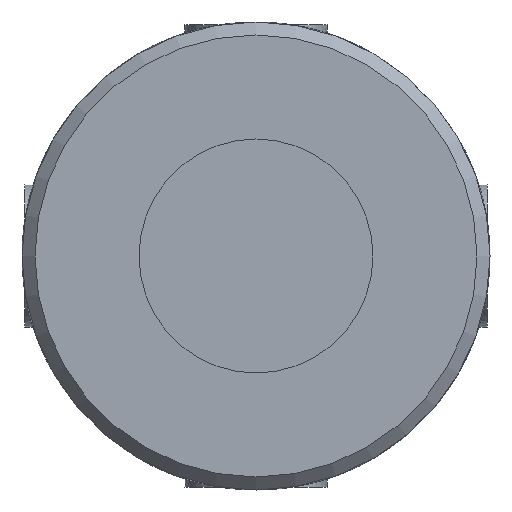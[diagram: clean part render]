
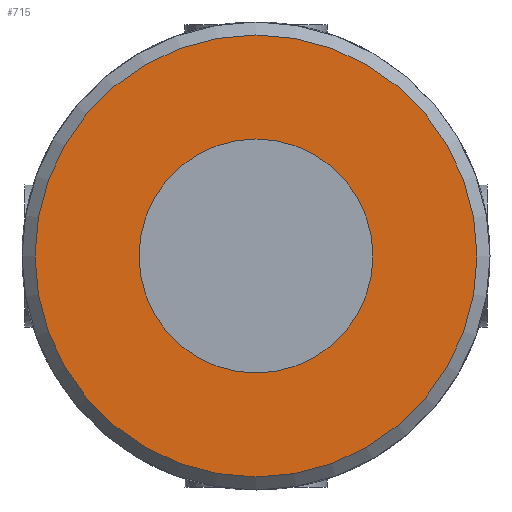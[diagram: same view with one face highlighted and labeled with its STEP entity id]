
A CAD part, front view. The second image highlights one B-rep face of the part: STEP entity #715.
In plain terms, the highlighted planar face has unit normal (0, -1, 0).
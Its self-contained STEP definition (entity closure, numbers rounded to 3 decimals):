
#131=PLANE('',#780);
#157=FACE_BOUND('',#245,.T.);
#182=FACE_OUTER_BOUND('',#244,.T.);
#244=EDGE_LOOP('',(#556));
#245=EDGE_LOOP('',(#557));
#293=CIRCLE('',#775,9.);
#295=CIRCLE('',#778,17.);
#338=VERTEX_POINT('',#1104);
#340=VERTEX_POINT('',#1109);
#412=EDGE_CURVE('',#338,#338,#293,.T.);
#414=EDGE_CURVE('',#340,#340,#295,.T.);
#556=ORIENTED_EDGE('',*,*,#414,.F.);
#557=ORIENTED_EDGE('',*,*,#412,.T.);
#715=ADVANCED_FACE('',(#182,#157),#131,.F.);
#775=AXIS2_PLACEMENT_3D('',#1105,#905,#906);
#778=AXIS2_PLACEMENT_3D('',#1110,#911,#912);
#780=AXIS2_PLACEMENT_3D('',#1334,#919,#920);
#905=DIRECTION('center_axis',(0.,1.,0.));
#906=DIRECTION('ref_axis',(-1.,0.,0.));
#911=DIRECTION('center_axis',(0.,1.,0.));
#912=DIRECTION('ref_axis',(1.,0.,0.));
#919=DIRECTION('center_axis',(0.,1.,0.));
#920=DIRECTION('ref_axis',(0.,0.,1.));
#1104=CARTESIAN_POINT('',(9.,-45.5,0.));
#1105=CARTESIAN_POINT('Origin',(0.,-45.5,0.));
#1109=CARTESIAN_POINT('',(-17.,-45.5,0.));
#1110=CARTESIAN_POINT('Origin',(0.,-45.5,0.));
#1334=CARTESIAN_POINT('Origin',(0.,-45.5,0.));
